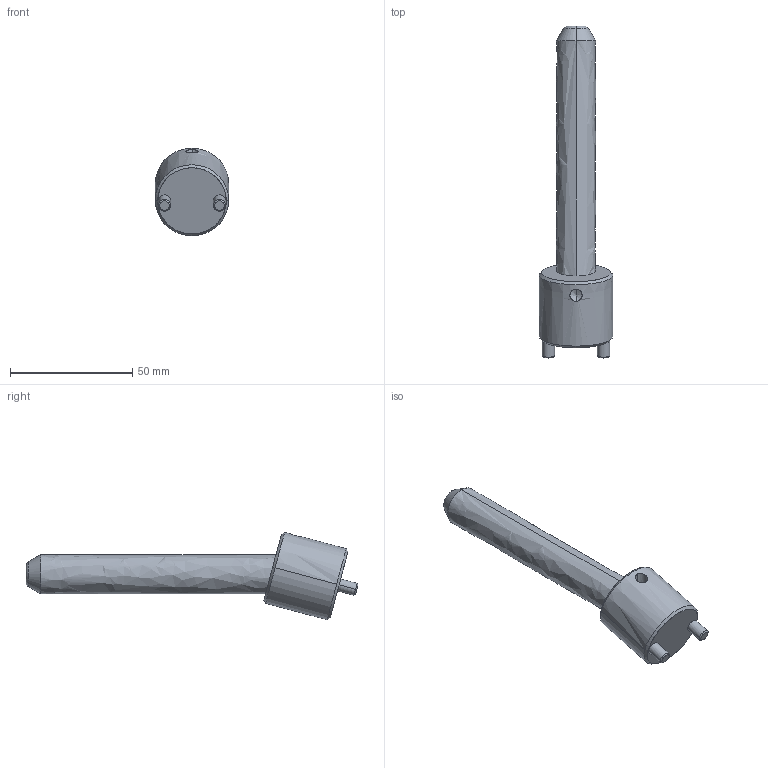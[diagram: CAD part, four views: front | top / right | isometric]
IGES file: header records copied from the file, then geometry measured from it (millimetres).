
Start section: START RECORD GO HERE.
Global section: file name: CI1516100.igs; native system: DASSAULT SYSTEMES CATIA V5 R20 - www.3ds.com; preprocessor: CATIA Version 5 Release 20 ; author: r.borello; organization: CFTORINO; date: 20190621.161323; units: millimetre
Bounding box: 30 x 135.58 x 35.71 mm (x, y, z)
Surface area: 11962.4 mm2 (no closed solid volume)
Topology: 0 solids, 0 shells, 39 faces, 162 edges, 160 vertices
Faces by surface type: revolution 32, plane 7
